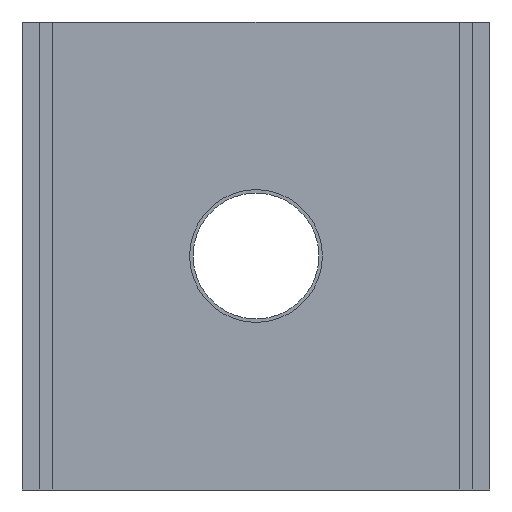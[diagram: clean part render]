
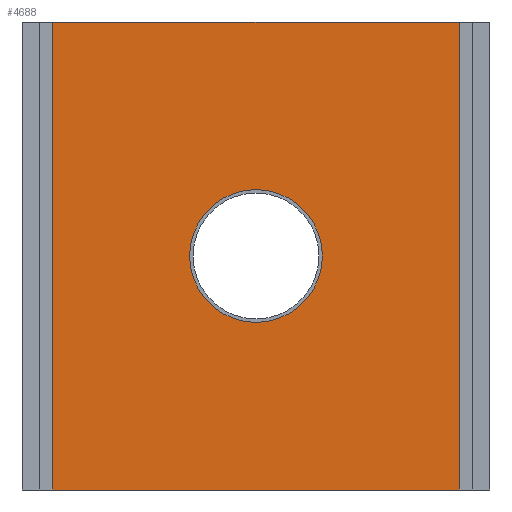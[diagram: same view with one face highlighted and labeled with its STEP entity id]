
A CAD part, front view. The second image highlights one B-rep face of the part: STEP entity #4688.
In plain terms, the highlighted planar face has unit normal (0, -1, 0).
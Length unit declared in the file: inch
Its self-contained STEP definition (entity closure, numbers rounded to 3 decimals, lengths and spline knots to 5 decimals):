
#4010=CARTESIAN_POINT('',(-9.19291,-5.43351,10.57087));
#4011=VERTEX_POINT('',#4010);
#4018=CARTESIAN_POINT('',(9.19291,-5.43351,10.57087));
#4019=VERTEX_POINT('',#4018);
#4020=CARTESIAN_POINT('',(9.19291,-5.43351,10.57087));
#4021=DIRECTION('',(-1.0,0.0,0.0));
#4022=VECTOR('',#4021,18.38583);
#4023=LINE('',#4020,#4022);
#4024=EDGE_CURVE('',#4019,#4011,#4023,.T.);
#4182=CARTESIAN_POINT('',(-3.0,-5.43351,0.));
#4183=VERTEX_POINT('',#4182);
#4184=CARTESIAN_POINT('',(0.0,-5.43351,0.0));
#4185=DIRECTION('',(0.0,1.0,0.0));
#4186=DIRECTION('',(1.0,0.0,0.0));
#4187=AXIS2_PLACEMENT_3D('',#4184,#4185,#4186);
#4188=CIRCLE('',#4187,3.0);
#4189=EDGE_CURVE('',#4183,#4183,#4188,.T.);
#4644=CARTESIAN_POINT('',(9.19291,-5.43351,-10.57087));
#4645=VERTEX_POINT('',#4644);
#4646=CARTESIAN_POINT('',(9.19291,-5.43351,-10.57087));
#4647=DIRECTION('',(0.0,0.0,1.0));
#4648=VECTOR('',#4647,21.14173);
#4649=LINE('',#4646,#4648);
#4650=EDGE_CURVE('',#4645,#4019,#4649,.T.);
#4662=CARTESIAN_POINT('',(9.19291,-5.43351,0.0));
#4663=DIRECTION('',(0.0,-1.0,0.0));
#4664=DIRECTION('',(0.0,0.0,-1.0));
#4665=AXIS2_PLACEMENT_3D('',#4662,#4663,#4664);
#4666=PLANE('',#4665);
#4667=ORIENTED_EDGE('',*,*,#4024,.T.);
#4668=CARTESIAN_POINT('',(-9.19291,-5.43351,-10.57087));
#4669=VERTEX_POINT('',#4668);
#4670=CARTESIAN_POINT('',(-9.19291,-5.43351,-10.57087));
#4671=DIRECTION('',(0.0,0.0,1.0));
#4672=VECTOR('',#4671,21.14173);
#4673=LINE('',#4670,#4672);
#4674=EDGE_CURVE('',#4669,#4011,#4673,.T.);
#4675=ORIENTED_EDGE('',*,*,#4674,.F.);
#4676=CARTESIAN_POINT('',(-9.19291,-5.43351,-10.57087));
#4677=DIRECTION('',(1.0,0.0,0.0));
#4678=VECTOR('',#4677,18.38583);
#4679=LINE('',#4676,#4678);
#4680=EDGE_CURVE('',#4669,#4645,#4679,.T.);
#4681=ORIENTED_EDGE('',*,*,#4680,.T.);
#4682=ORIENTED_EDGE('',*,*,#4650,.T.);
#4683=EDGE_LOOP('',(#4667,#4675,#4681,#4682));
#4684=FACE_OUTER_BOUND('',#4683,.T.);
#4685=ORIENTED_EDGE('',*,*,#4189,.T.);
#4686=EDGE_LOOP('',(#4685));
#4687=FACE_BOUND('',#4686,.T.);
#4688=ADVANCED_FACE('',(#4684,#4687),#4666,.T.);
